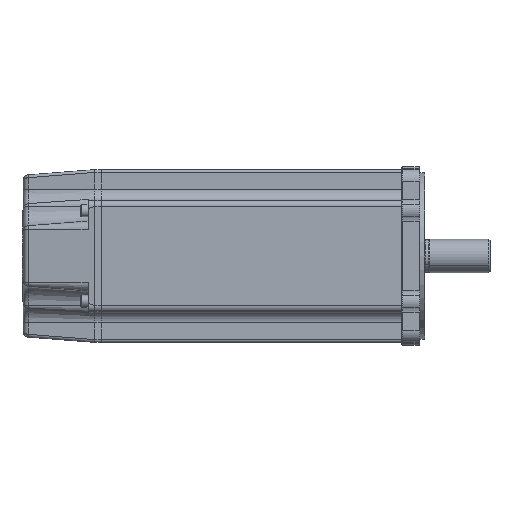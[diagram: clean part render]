
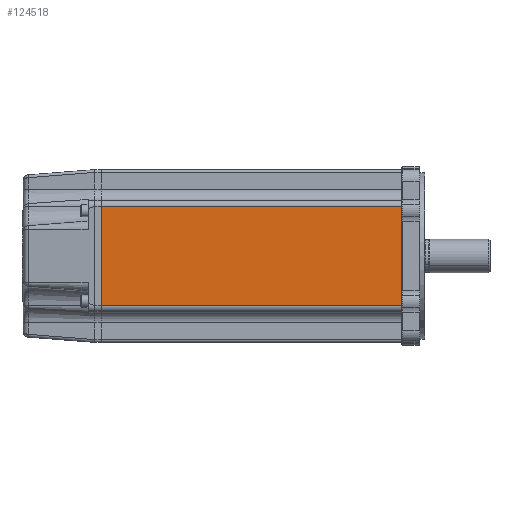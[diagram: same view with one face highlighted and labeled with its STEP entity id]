
A CAD part, front view. The second image highlights one B-rep face of the part: STEP entity #124518.
In plain terms, the highlighted planar face has unit normal (0, -1, 0).
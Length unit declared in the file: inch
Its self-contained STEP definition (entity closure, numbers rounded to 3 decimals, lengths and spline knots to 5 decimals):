
#1492 = EDGE_CURVE ( 'NONE', #39012, #70730, #82188, .T. ) ;
#11687 = FACE_OUTER_BOUND ( 'NONE', #139603, .T. ) ;
#19136 = VERTEX_POINT ( 'NONE', #144167 ) ;
#20447 = LINE ( 'NONE', #94339, #115272 ) ;
#21099 = CARTESIAN_POINT ( 'NONE',  ( -7.13, -1.935, 1.12 ) ) ;
#30786 = CARTESIAN_POINT ( 'NONE',  ( -7.13, -1.935, 1.12 ) ) ;
#35073 = LINE ( 'NONE', #54463, #100758 ) ;
#35436 = CARTESIAN_POINT ( 'NONE',  ( -0.4, -1.935, 1.12 ) ) ;
#39012 = VERTEX_POINT ( 'NONE', #35436 ) ;
#45440 = VECTOR ( 'NONE', #104791, 39.37008 ) ;
#53277 = DIRECTION ( 'NONE',  ( 0., 0., 1. ) ) ;
#54463 = CARTESIAN_POINT ( 'NONE',  ( -0.4, -1.935, -1.12 ) ) ;
#57494 = AXIS2_PLACEMENT_3D ( 'NONE', #89968, #127305, #53277 ) ;
#65142 = PLANE ( 'NONE',  #57494 ) ;
#70730 = VERTEX_POINT ( 'NONE', #21099 ) ;
#82188 = LINE ( 'NONE', #30786, #45440 ) ;
#85483 = VERTEX_POINT ( 'NONE', #90952 ) ;
#87934 = ORIENTED_EDGE ( 'NONE', *, *, #157781, .F. ) ;
#89968 = CARTESIAN_POINT ( 'NONE',  ( -7.13, -1.935, -1.935 ) ) ;
#90952 = CARTESIAN_POINT ( 'NONE',  ( -7.13, -1.935, -1.12 ) ) ;
#94339 = CARTESIAN_POINT ( 'NONE',  ( -7.13, -1.935, -1.935 ) ) ;
#100758 = VECTOR ( 'NONE', #140935, 39.37008 ) ;
#104791 = DIRECTION ( 'NONE',  ( -1., 0., 0. ) ) ;
#110901 = ORIENTED_EDGE ( 'NONE', *, *, #1492, .T. ) ;
#115272 = VECTOR ( 'NONE', #143597, 39.37008 ) ;
#119129 = EDGE_CURVE ( 'NONE', #85483, #19136, #35073, .T. ) ;
#124518 = ADVANCED_FACE ( 'NONE', ( #11687 ), #65142, .F. ) ;
#125426 = VECTOR ( 'NONE', #148856, 39.37008 ) ;
#127305 = DIRECTION ( 'NONE',  ( 0., 1., 0. ) ) ;
#136345 = CARTESIAN_POINT ( 'NONE',  ( -0.4, -1.935, -1.935 ) ) ;
#137158 = ORIENTED_EDGE ( 'NONE', *, *, #119129, .T. ) ;
#139603 = EDGE_LOOP ( 'NONE', ( #154661, #110901, #87934, #137158 ) ) ;
#140935 = DIRECTION ( 'NONE',  ( 1., 0., 0. ) ) ;
#143597 = DIRECTION ( 'NONE',  ( 0., 0., 1. ) ) ;
#144167 = CARTESIAN_POINT ( 'NONE',  ( -0.4, -1.935, -1.12 ) ) ;
#148856 = DIRECTION ( 'NONE',  ( 0., 0., 1. ) ) ;
#151124 = EDGE_CURVE ( 'NONE', #19136, #39012, #158410, .T. ) ;
#154661 = ORIENTED_EDGE ( 'NONE', *, *, #151124, .T. ) ;
#157781 = EDGE_CURVE ( 'NONE', #85483, #70730, #20447, .T. ) ;
#158410 = LINE ( 'NONE', #136345, #125426 ) ;
